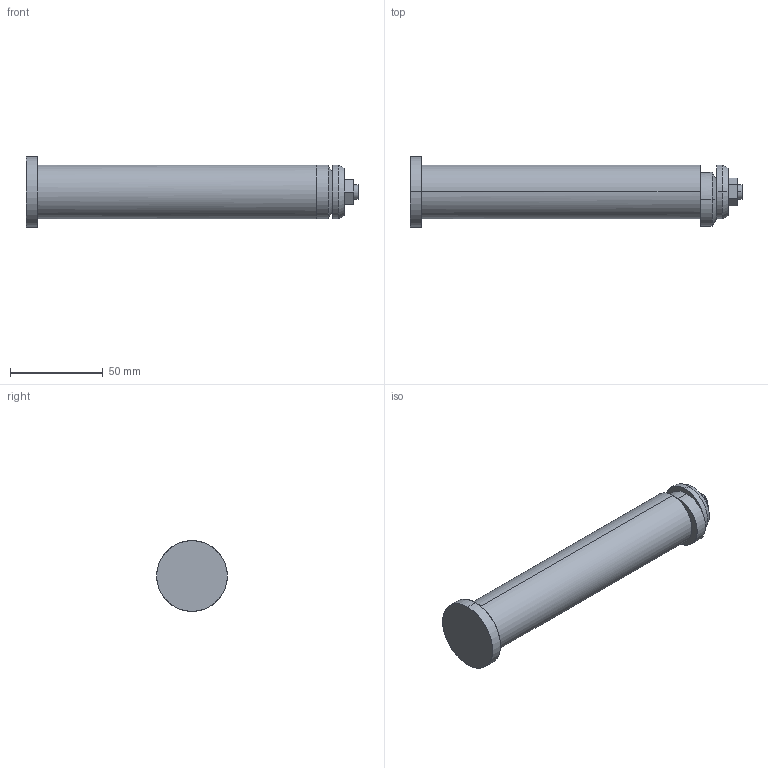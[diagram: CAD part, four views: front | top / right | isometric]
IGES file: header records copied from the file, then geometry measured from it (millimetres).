
Start section: START RECORD GO HERE.
Global section: file name: 395PSF-1.igs; native system: DASSAULT SYSTEMES CATIA V5 R20 - www.3ds.com; preprocessor: CATIA Version 5 Release 20 ; author: Utente; organization: NB04-ASUS; date: 20200409.225417; units: millimetre
Bounding box: 178.5 x 38 x 38 mm (x, y, z)
Surface area: 20064.5 mm2 (no closed solid volume)
Topology: 0 solids, 0 shells, 34 faces, 142 edges, 142 vertices
Faces by surface type: revolution 18, extrusion 16
